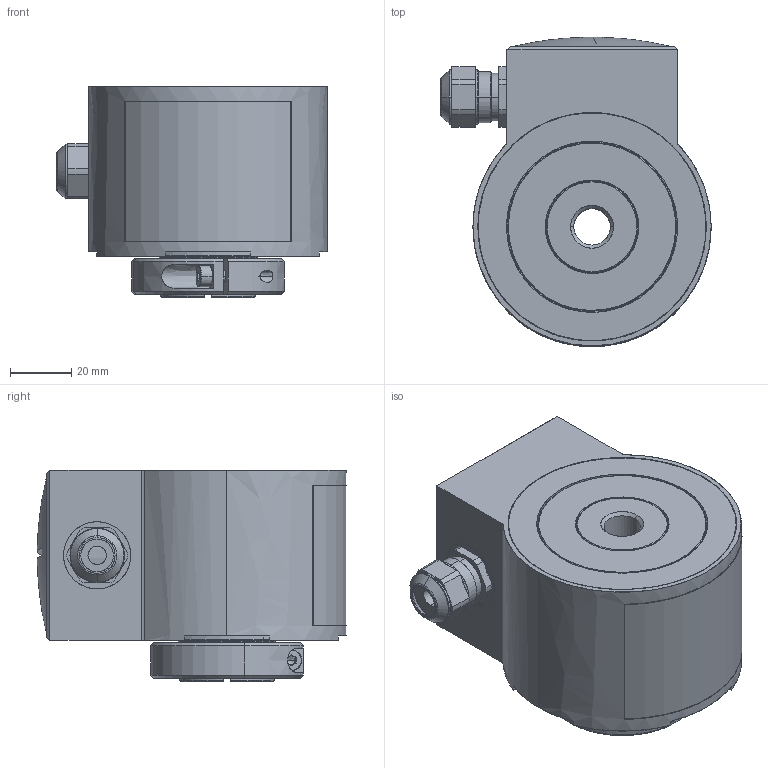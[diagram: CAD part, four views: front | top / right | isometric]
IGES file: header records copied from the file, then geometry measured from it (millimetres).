
Start section: SolidWorks IGES file using analytic representation for surfaces
Global section: file name: K:\Konstruktion\MW\HW730\Daten für STEP&IGES\IGES\HW730 12mm.IGS; native system: SolidWorks 2010; preprocessor: SolidWorks 2010; author: STU; date: 120621.080328; units: millimetre
Bounding box: 88.51 x 101.29 x 69.2 mm (x, y, z)
Surface area: 98595 mm2 (no closed solid volume)
Topology: 0 solids, 0 shells, 406 faces, 6559 edges, 6545 vertices
Faces by surface type: revolution 256, bspline 150
